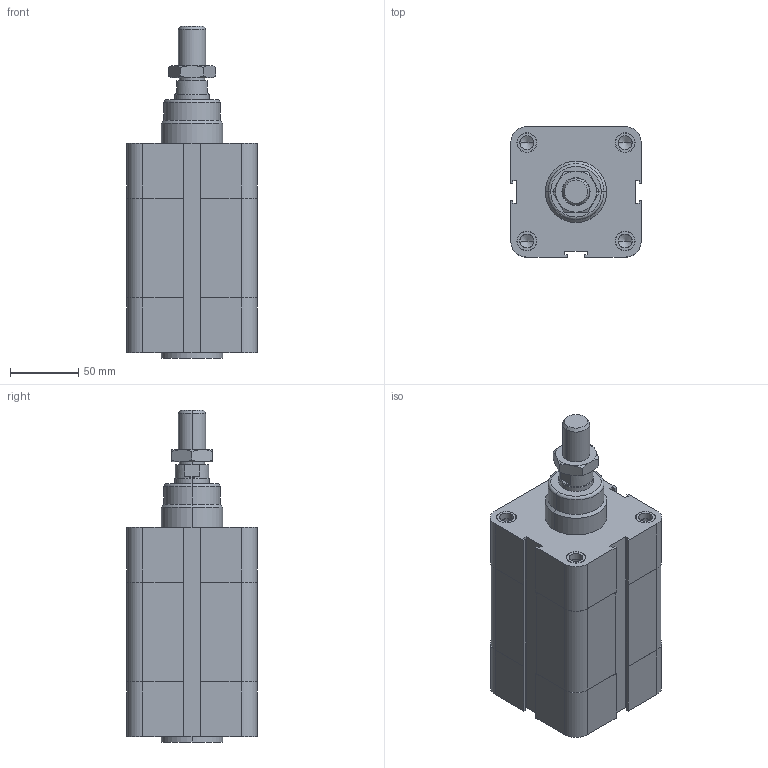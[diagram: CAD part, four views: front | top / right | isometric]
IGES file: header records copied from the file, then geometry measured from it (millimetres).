
Global section: file name: No Iges File Name specified; native system: AutoDesk Inventor R6.1; preprocessor: AutoDesk Inventor Iges Exporter R6.1; author: No Author specified; organization: No Organization specified; date: 20040107.171050; units: millimetre
Bounding box: 95.5 x 95.5 x 243 mm (x, y, z)
Volume: 1396746.1 mm3; surface area: 112271.3 mm2
Topology: 3 solids, 3 shells, 244 faces, 570 edges, 356 vertices
Faces by surface type: plane 83, bspline 67, cylinder 34, revolution 34, cone 24, torus 2
